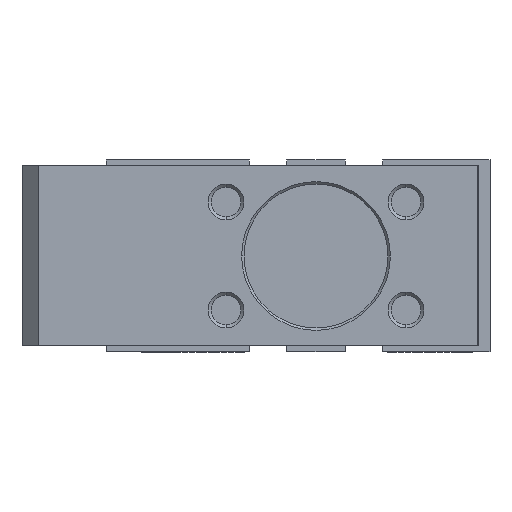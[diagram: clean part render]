
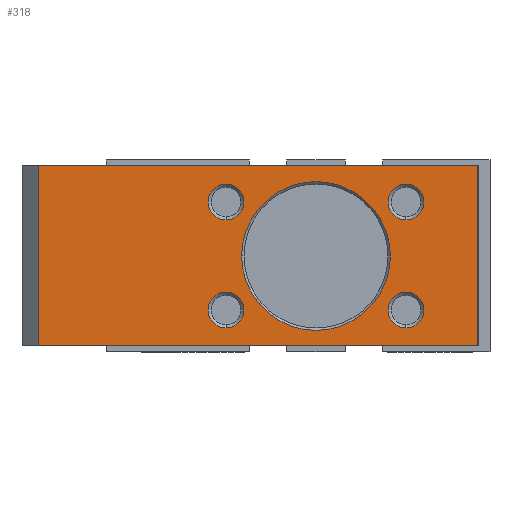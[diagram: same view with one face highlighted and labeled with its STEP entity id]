
A CAD part, left-side view. The second image highlights one B-rep face of the part: STEP entity #318.
In plain terms, the highlighted planar face has unit normal (-1, 0, 0).
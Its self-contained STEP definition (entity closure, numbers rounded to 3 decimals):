
#65 = VERTEX_POINT ( 'NONE', #4556 ) ;
#233 = CARTESIAN_POINT ( 'NONE',  ( -8.5, 7.5, 4.5 ) ) ;
#305 = CARTESIAN_POINT ( 'NONE',  ( -8.5, -13.5, 7.5 ) ) ;
#318 = ADVANCED_FACE ( 'NONE', ( #8781, #3619, #1498, #4109, #10894, #8132 ), #13310, .F. ) ;
#418 = EDGE_LOOP ( 'NONE', ( #4611, #1404 ) ) ;
#469 = ORIENTED_EDGE ( 'NONE', *, *, #5355, .F. ) ;
#539 = VECTOR ( 'NONE', #1243, 1000. ) ;
#557 = EDGE_CURVE ( 'NONE', #8017, #4588, #12167, .T. ) ;
#597 = VERTEX_POINT ( 'NONE', #1469 ) ;
#730 = CIRCLE ( 'NONE', #9047, 1.5 ) ;
#890 = DIRECTION ( 'NONE',  ( 1., 0., 0. ) ) ;
#903 = ORIENTED_EDGE ( 'NONE', *, *, #6475, .F. ) ;
#920 = DIRECTION ( 'NONE',  ( 0., 0., -1. ) ) ;
#965 = AXIS2_PLACEMENT_3D ( 'NONE', #12085, #890, #7977 ) ;
#1080 = ORIENTED_EDGE ( 'NONE', *, *, #557, .T. ) ;
#1169 = DIRECTION ( 'NONE',  ( -1., 0., 0. ) ) ;
#1224 = VERTEX_POINT ( 'NONE', #5829 ) ;
#1243 = DIRECTION ( 'NONE',  ( 0., 0., 1. ) ) ;
#1246 = VECTOR ( 'NONE', #13218, 1000. ) ;
#1270 = CIRCLE ( 'NONE', #8234, 1.5 ) ;
#1391 = LINE ( 'NONE', #6957, #1246 ) ;
#1404 = ORIENTED_EDGE ( 'NONE', *, *, #7850, .F. ) ;
#1469 = CARTESIAN_POINT ( 'NONE',  ( -8.5, 7.5, 3. ) ) ;
#1498 = FACE_BOUND ( 'NONE', #3500, .T. ) ;
#1741 = DIRECTION ( 'NONE',  ( 0., -1., 0. ) ) ;
#1775 = AXIS2_PLACEMENT_3D ( 'NONE', #9686, #2362, #8601 ) ;
#2221 = ORIENTED_EDGE ( 'NONE', *, *, #8791, .F. ) ;
#2362 = DIRECTION ( 'NONE',  ( -1., 0., 0. ) ) ;
#2377 = AXIS2_PLACEMENT_3D ( 'NONE', #2475, #7610, #12944 ) ;
#2475 = CARTESIAN_POINT ( 'NONE',  ( -8.5, -7.5, -4.5 ) ) ;
#2556 = CIRCLE ( 'NONE', #7803, 1.5 ) ;
#2566 = VERTEX_POINT ( 'NONE', #9460 ) ;
#2758 = CARTESIAN_POINT ( 'NONE',  ( -8.5, 0., 7.5 ) ) ;
#2846 = DIRECTION ( 'NONE',  ( -1., 0., 0. ) ) ;
#2894 = CARTESIAN_POINT ( 'NONE',  ( -8.5, -7.5, 4.5 ) ) ;
#2960 = EDGE_CURVE ( 'NONE', #1224, #2566, #12945, .T. ) ;
#3071 = EDGE_CURVE ( 'NONE', #12529, #5174, #13104, .T. ) ;
#3088 = CARTESIAN_POINT ( 'NONE',  ( -8.5, -13.5, -7.5 ) ) ;
#3121 = AXIS2_PLACEMENT_3D ( 'NONE', #5246, #1169, #4177 ) ;
#3500 = EDGE_LOOP ( 'NONE', ( #12540, #469 ) ) ;
#3614 = EDGE_CURVE ( 'NONE', #6650, #10813, #11769, .T. ) ;
#3619 = FACE_BOUND ( 'NONE', #6204, .T. ) ;
#3803 = EDGE_CURVE ( 'NONE', #65, #597, #2556, .T. ) ;
#3859 = CARTESIAN_POINT ( 'NONE',  ( -8.5, -7.5, 3. ) ) ;
#4102 = EDGE_CURVE ( 'NONE', #9884, #8111, #5617, .T. ) ;
#4109 = FACE_BOUND ( 'NONE', #10336, .T. ) ;
#4177 = DIRECTION ( 'NONE',  ( 0., 0., 1. ) ) ;
#4348 = DIRECTION ( 'NONE',  ( -1., 0., 0. ) ) ;
#4381 = CIRCLE ( 'NONE', #4761, 1.5 ) ;
#4556 = CARTESIAN_POINT ( 'NONE',  ( -8.5, 7.5, 6. ) ) ;
#4588 = VERTEX_POINT ( 'NONE', #12893 ) ;
#4611 = ORIENTED_EDGE ( 'NONE', *, *, #7146, .F. ) ;
#4761 = AXIS2_PLACEMENT_3D ( 'NONE', #2894, #13093, #6894 ) ;
#4822 = EDGE_CURVE ( 'NONE', #10813, #8017, #1391, .T. ) ;
#4869 = ORIENTED_EDGE ( 'NONE', *, *, #8949, .F. ) ;
#4989 = VECTOR ( 'NONE', #920, 1000. ) ;
#5174 = VERTEX_POINT ( 'NONE', #7107 ) ;
#5199 = CIRCLE ( 'NONE', #13026, 6.2 ) ;
#5246 = CARTESIAN_POINT ( 'NONE',  ( -8.5, 7.5, -4.5 ) ) ;
#5351 = CIRCLE ( 'NONE', #1775, 1.5 ) ;
#5355 = EDGE_CURVE ( 'NONE', #597, #65, #730, .T. ) ;
#5368 = DIRECTION ( 'NONE',  ( -1., 0., 0. ) ) ;
#5617 = CIRCLE ( 'NONE', #11953, 6.2 ) ;
#5779 = CARTESIAN_POINT ( 'NONE',  ( -8.5, 23.086, -7.5 ) ) ;
#5829 = CARTESIAN_POINT ( 'NONE',  ( -8.5, -7.5, -3. ) ) ;
#5864 = CARTESIAN_POINT ( 'NONE',  ( -8.5, 0., 0. ) ) ;
#5882 = ORIENTED_EDGE ( 'NONE', *, *, #4102, .F. ) ;
#6204 = EDGE_LOOP ( 'NONE', ( #5882, #903 ) ) ;
#6216 = CARTESIAN_POINT ( 'NONE',  ( -8.5, 7.5, -4.5 ) ) ;
#6439 = CARTESIAN_POINT ( 'NONE',  ( -8.5, -6.2, 0. ) ) ;
#6475 = EDGE_CURVE ( 'NONE', #8111, #9884, #5199, .T. ) ;
#6620 = ORIENTED_EDGE ( 'NONE', *, *, #11752, .F. ) ;
#6650 = VERTEX_POINT ( 'NONE', #11806 ) ;
#6894 = DIRECTION ( 'NONE',  ( 0., 0., 1. ) ) ;
#6957 = CARTESIAN_POINT ( 'NONE',  ( -8.5, 0., -7.5 ) ) ;
#7071 = DIRECTION ( 'NONE',  ( -1., 0., 0. ) ) ;
#7107 = CARTESIAN_POINT ( 'NONE',  ( -8.5, 7.5, -6. ) ) ;
#7122 = DIRECTION ( 'NONE',  ( 0., 0., 1. ) ) ;
#7146 = EDGE_CURVE ( 'NONE', #10954, #12507, #5351, .T. ) ;
#7212 = ORIENTED_EDGE ( 'NONE', *, *, #2960, .F. ) ;
#7383 = CARTESIAN_POINT ( 'NONE',  ( -8.5, 6.2, 0. ) ) ;
#7421 = CARTESIAN_POINT ( 'NONE',  ( -8.5, 7.5, 4.5 ) ) ;
#7610 = DIRECTION ( 'NONE',  ( -1., 0., 0. ) ) ;
#7680 = AXIS2_PLACEMENT_3D ( 'NONE', #11216, #11305, #7122 ) ;
#7803 = AXIS2_PLACEMENT_3D ( 'NONE', #233, #4348, #10549 ) ;
#7850 = EDGE_CURVE ( 'NONE', #12507, #10954, #4381, .T. ) ;
#7977 = DIRECTION ( 'NONE',  ( 0., 0., -1. ) ) ;
#8017 = VERTEX_POINT ( 'NONE', #3088 ) ;
#8111 = VERTEX_POINT ( 'NONE', #7383 ) ;
#8132 = FACE_OUTER_BOUND ( 'NONE', #8826, .T. ) ;
#8234 = AXIS2_PLACEMENT_3D ( 'NONE', #6216, #7071, #11303 ) ;
#8241 = ORIENTED_EDGE ( 'NONE', *, *, #3614, .T. ) ;
#8601 = DIRECTION ( 'NONE',  ( 0., 0., 1. ) ) ;
#8781 = FACE_BOUND ( 'NONE', #11880, .T. ) ;
#8791 = EDGE_CURVE ( 'NONE', #6650, #4588, #11302, .T. ) ;
#8826 = EDGE_LOOP ( 'NONE', ( #1080, #2221, #8241, #12853 ) ) ;
#8949 = EDGE_CURVE ( 'NONE', #5174, #12529, #1270, .T. ) ;
#9047 = AXIS2_PLACEMENT_3D ( 'NONE', #7421, #5368, #12536 ) ;
#9192 = CARTESIAN_POINT ( 'NONE',  ( -8.5, 23.086, 7.5 ) ) ;
#9460 = CARTESIAN_POINT ( 'NONE',  ( -8.5, -7.5, -6. ) ) ;
#9686 = CARTESIAN_POINT ( 'NONE',  ( -8.5, -7.5, 4.5 ) ) ;
#9689 = VECTOR ( 'NONE', #11082, 1000. ) ;
#9884 = VERTEX_POINT ( 'NONE', #6439 ) ;
#10327 = DIRECTION ( 'NONE',  ( -1., 0., 0. ) ) ;
#10336 = EDGE_LOOP ( 'NONE', ( #7212, #6620 ) ) ;
#10421 = ORIENTED_EDGE ( 'NONE', *, *, #3071, .F. ) ;
#10549 = DIRECTION ( 'NONE',  ( 0., 0., 1. ) ) ;
#10813 = VERTEX_POINT ( 'NONE', #5779 ) ;
#10864 = CIRCLE ( 'NONE', #2377, 1.5 ) ;
#10894 = FACE_BOUND ( 'NONE', #418, .T. ) ;
#10954 = VERTEX_POINT ( 'NONE', #12757 ) ;
#11082 = DIRECTION ( 'NONE',  ( 0., -1., 0. ) ) ;
#11126 = CARTESIAN_POINT ( 'NONE',  ( -8.5, 7.5, -3. ) ) ;
#11216 = CARTESIAN_POINT ( 'NONE',  ( -8.5, -7.5, -4.5 ) ) ;
#11302 = LINE ( 'NONE', #2758, #9689 ) ;
#11303 = DIRECTION ( 'NONE',  ( 0., 0., 1. ) ) ;
#11305 = DIRECTION ( 'NONE',  ( -1., 0., 0. ) ) ;
#11752 = EDGE_CURVE ( 'NONE', #2566, #1224, #10864, .T. ) ;
#11769 = LINE ( 'NONE', #9192, #4989 ) ;
#11806 = CARTESIAN_POINT ( 'NONE',  ( -8.5, 23.086, 7.5 ) ) ;
#11880 = EDGE_LOOP ( 'NONE', ( #10421, #4869 ) ) ;
#11953 = AXIS2_PLACEMENT_3D ( 'NONE', #5864, #2846, #1741 ) ;
#12085 = CARTESIAN_POINT ( 'NONE',  ( -8.5, 23.086, 7.5 ) ) ;
#12167 = LINE ( 'NONE', #305, #539 ) ;
#12243 = CARTESIAN_POINT ( 'NONE',  ( -8.5, 0., 0. ) ) ;
#12507 = VERTEX_POINT ( 'NONE', #3859 ) ;
#12529 = VERTEX_POINT ( 'NONE', #11126 ) ;
#12536 = DIRECTION ( 'NONE',  ( 0., 0., 1. ) ) ;
#12540 = ORIENTED_EDGE ( 'NONE', *, *, #3803, .F. ) ;
#12757 = CARTESIAN_POINT ( 'NONE',  ( -8.5, -7.5, 6. ) ) ;
#12853 = ORIENTED_EDGE ( 'NONE', *, *, #4822, .T. ) ;
#12893 = CARTESIAN_POINT ( 'NONE',  ( -8.5, -13.5, 7.5 ) ) ;
#12944 = DIRECTION ( 'NONE',  ( 0., 0., 1. ) ) ;
#12945 = CIRCLE ( 'NONE', #7680, 1.5 ) ;
#13026 = AXIS2_PLACEMENT_3D ( 'NONE', #12243, #10327, #13294 ) ;
#13093 = DIRECTION ( 'NONE',  ( -1., 0., 0. ) ) ;
#13104 = CIRCLE ( 'NONE', #3121, 1.5 ) ;
#13218 = DIRECTION ( 'NONE',  ( 0., -1., 0. ) ) ;
#13294 = DIRECTION ( 'NONE',  ( 0., -1., 0. ) ) ;
#13310 = PLANE ( 'NONE',  #965 ) ;
